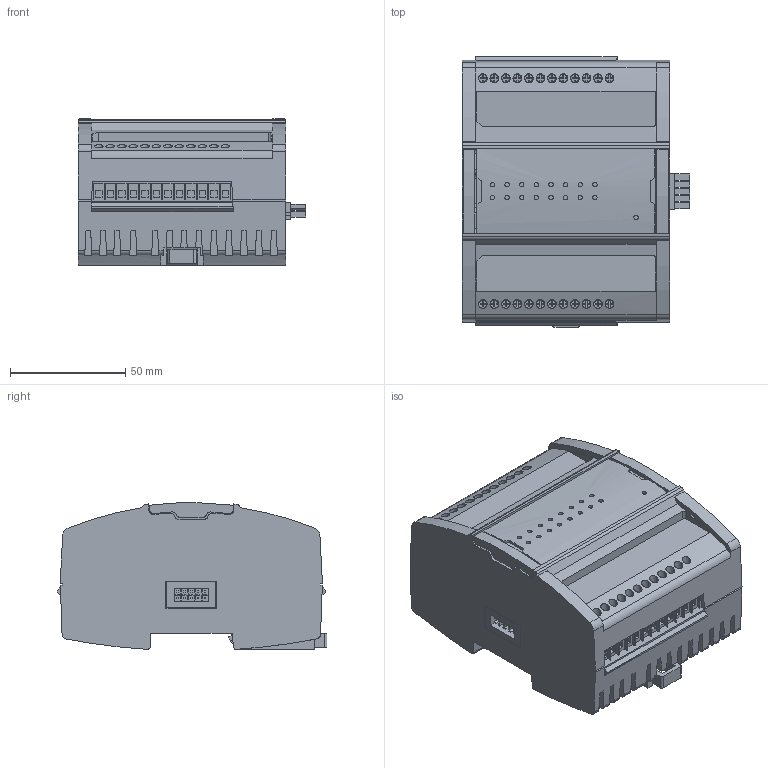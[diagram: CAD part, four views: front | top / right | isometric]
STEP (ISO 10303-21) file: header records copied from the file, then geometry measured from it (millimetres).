
FILE_DESCRIPTION((''),'2;1');
FILE_NAME('SXWDI16XX10001-3D','2021-10-28T15:55:00',('SESA231899'),('Schneider-Electric'),'CREO PARAMETRIC BY PTC INC, 2019471','CREO PARAMETRIC BY PTC INC, 2019471','');
FILE_SCHEMA(('AP242_MANAGED_MODEL_BASED_3D_ENGINEERING_MIM_LF { 1 0 10303 442 1 1 4 }'));
Products named in the file (1): SXWDI16XX10001-3D
Bounding box: 98.73 x 117.22 x 63.76 mm (x, y, z)
Volume: 538364.5 mm3; surface area: 56897 mm2
Topology: 3 solids, 3 shells, 1405 faces, 3780 edges, 2516 vertices
Faces by surface type: plane 1177, cylinder 206, extrusion 22
Entity records: 72773 total; most frequent: CARTESIAN_POINT 36668, ORIENTED_EDGE 7560, DIRECTION 6717, EDGE_CURVE 3780, VECTOR 3275, LINE 3253, VERTEX_POINT 2516, AXIS2_PLACEMENT_3D 1721
